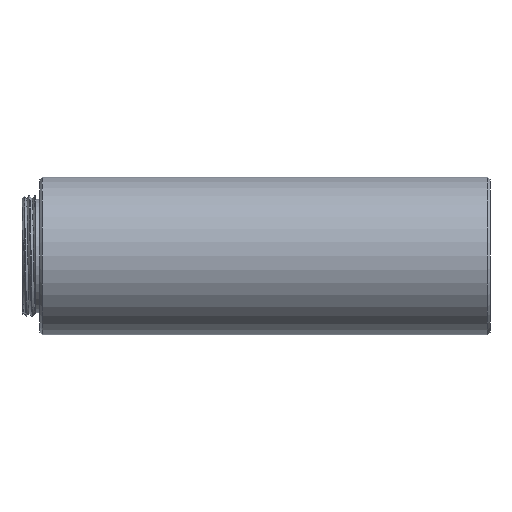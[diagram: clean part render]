
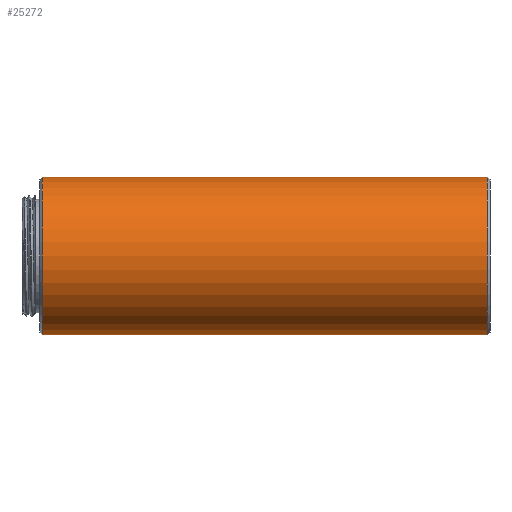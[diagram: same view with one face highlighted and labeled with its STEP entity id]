
A CAD part, front view. The second image highlights one B-rep face of the part: STEP entity #25272.
In plain terms, the highlighted cylindrical face has radius 8.89 mm (diameter 17.78 mm), a partial arc.
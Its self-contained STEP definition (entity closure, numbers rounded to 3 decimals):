
#10793=DIRECTION('',(1.,0.,0.));
#10794=VECTOR('',#10793,50.2);
#10795=CARTESIAN_POINT('',(0.3,0.,
-8.89));
#10796=LINE('',#10795,#10794);
#10797=CARTESIAN_POINT('',(50.5,0.,0.));
#10798=DIRECTION('',(1.,0.,0.));
#10799=DIRECTION('',(0.,0.,1.));
#10800=AXIS2_PLACEMENT_3D('',#10797,#10798,#10799);
#10802=CARTESIAN_POINT('',(0.3,0.,0.));
#10803=DIRECTION('',(-1.,0.,0.));
#10804=DIRECTION('',(0.,0.,-1.));
#10805=AXIS2_PLACEMENT_3D('',#10802,#10803,#10804);
#10807=DIRECTION('',(1.,0.,0.));
#10808=VECTOR('',#10807,50.2);
#10809=CARTESIAN_POINT('',(0.3,0.,
8.89));
#10810=LINE('',#10809,#10808);
#11033=CARTESIAN_POINT('',(0.3,0.,-8.89));
#11034=CARTESIAN_POINT('',(0.3,0.,8.89));
#11035=VERTEX_POINT('',#11033);
#11036=VERTEX_POINT('',#11034);
#11041=CARTESIAN_POINT('',(50.5,0.,8.89));
#11042=CARTESIAN_POINT('',(50.5,0.,-8.89));
#11043=VERTEX_POINT('',#11041);
#11044=VERTEX_POINT('',#11042);
#25260=CARTESIAN_POINT('',(0.,0.,0.));
#25261=DIRECTION('',(1.,0.,0.));
#25262=DIRECTION('',(0.,0.,-1.));
#25263=AXIS2_PLACEMENT_3D('',#25260,#25261,#25262);
#25264=CYLINDRICAL_SURFACE('',#25263,8.89);
#25265=ORIENTED_EDGE('',*,*,#25225,.T.);
#25266=ORIENTED_EDGE('',*,*,#25255,.F.);
#25268=ORIENTED_EDGE('',*,*,#25267,.T.);
#25269=ORIENTED_EDGE('',*,*,#25251,.T.);
#25270=EDGE_LOOP('',(#25265,#25266,#25268,#25269));
#25271=FACE_OUTER_BOUND('',#25270,.F.);
#25272=ADVANCED_FACE('',(#25271),#25264,.T.);
#10801=CIRCLE('',#10800,8.89);
#10806=CIRCLE('',#10805,8.89);
#25225=EDGE_CURVE('',#11043,#11044,#10801,.T.);
#25251=EDGE_CURVE('',#11036,#11043,#10810,.T.);
#25255=EDGE_CURVE('',#11035,#11044,#10796,.T.);
#25267=EDGE_CURVE('',#11035,#11036,#10806,.T.);
